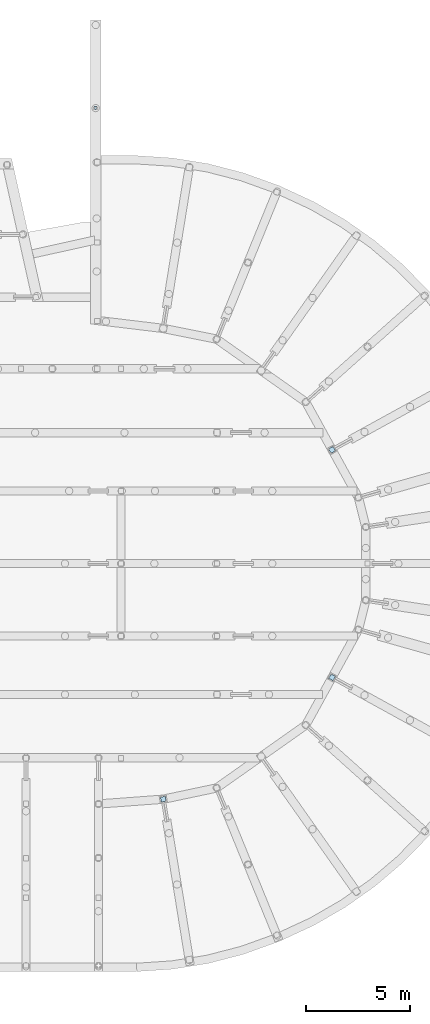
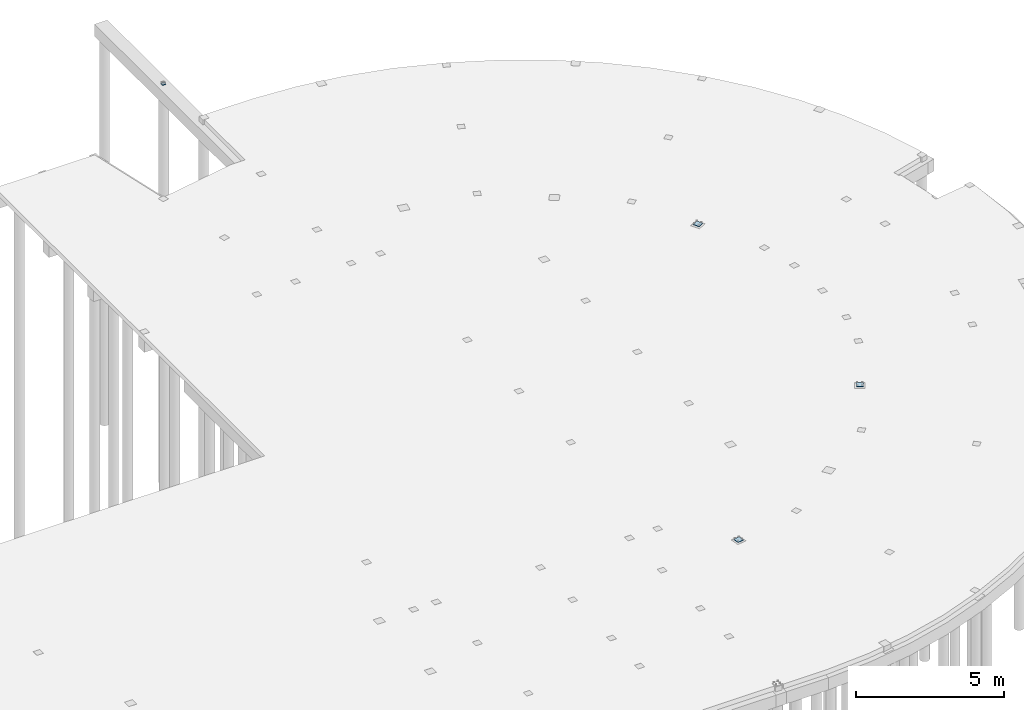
# One storey, part 8 of 22: 4 plates.
"""IFC2X3 building model written with IfcOpenShell, lengths in millimetres."""

from ifc_helpers import new_model, si_unit, frame, origin_with_axes, place, context, subcontext, project, spatial, polyline, outline, extrude, material, type_object, element, save


model = new_model("IFC2X3")

# Units and contexts
model_context = context("Model", 3, precision=1e-05, world=origin_with_axes())
body_context = subcontext(model_context, "Body", "Model", "MODEL_VIEW")
ifc_project = project(units=[si_unit("LENGTHUNIT", "METRE", prefix="MILLI"), si_unit("AREAUNIT", "SQUARE_METRE"), si_unit("VOLUMEUNIT", "CUBIC_METRE"), si_unit("MASSUNIT", "GRAM", prefix="KILO"), si_unit("TIMEUNIT", "SECOND"), si_unit("PLANEANGLEUNIT", "RADIAN"), si_unit("SOLIDANGLEUNIT", "STERADIAN"), si_unit("THERMODYNAMICTEMPERATUREUNIT", "DEGREE_CELSIUS"), si_unit("LUMINOUSINTENSITYUNIT", "LUMEN")], contexts=[model_context])

# Site, building, storey
site_placement = place(None, origin_with_axes())
site = spatial("IfcSite", under=ifc_project, at=site_placement, Name="Undefined", CompositionType="ELEMENT")
building_placement = place(site_placement, origin_with_axes())
building = spatial("IfcBuilding", under=site, at=building_placement, Name="Undefined", CompositionType="ELEMENT")
storey_placement = place(building_placement, origin_with_axes())
storey = spatial("IfcBuildingStorey", under=building, at=storey_placement, Name="Undefined", CompositionType="ELEMENT", Elevation=0.0)

# Plates
ifc_material = material(Name="STEEL/S235JR")
plate_type_1 = type_object("IfcPlateType", Name="PL15*240", PredefinedType="NOTDEFINED")
plate_1_placement = place(storey_placement, frame((60706.3084581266, 25146.9026812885, -42.5), z_axis=(0.0, 0.0, 1.0), x_axis=(-0.876415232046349, -0.481556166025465, 0.0)))
element("IfcPlate", 1, at=plate_1_placement, inside=storey, type_object=plate_type_1, material=ifc_material, Name="PLAAT", context=body_context, shape_type="SweptSolid", body=[
    extrude(outline(polyline([(240.000000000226, -119.999999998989), (9.67702362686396e-10, -120.000000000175), (-9.82254277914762e-10, 120.000000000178), (239.999999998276, 120.000000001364), (240.000000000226, -119.999999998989)])), frame((0.0, 0.0, -7.49999999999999), z_axis=(0.0, 0.0, 1.0), x_axis=(1.0, 0.0, 0.0)), (0.0, 0.0, 1.0), 15.0),
])
for number, where, z_axis, x_axis in (
    (2, (60706.3084581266, 14085.2973187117, -42.5), (0.0, 0.0, 1.0), (-0.876415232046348, 0.481556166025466, 0.0)),
    (3, (52499.9783395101, 8158.74834171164, -42.5), (0.0, 0.0, 1.0), (-0.158972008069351, 0.987283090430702, 0.0)),
):
    element("IfcPlate", number, at=place(storey_placement, frame(where, z_axis=z_axis, x_axis=x_axis)), inside=storey, type_object=plate_type_1, material=ifc_material, Name="PLAAT", context=body_context, shape_type="SweptSolid", body=[
        extrude(outline(polyline([(239.999999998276, 120.000000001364), (240.000000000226, -119.999999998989), (9.67702362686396e-10, -120.000000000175), (-9.82254277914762e-10, 120.000000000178), (239.999999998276, 120.000000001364)])), frame((0.0, 0.0, -7.49999999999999), z_axis=(0.0, 0.0, 1.0), x_axis=(1.0, 0.0, 0.0)), (0.0, 0.0, 1.0), 15.0),
    ])
plate_type_2 = type_object("IfcPlateType", Name="STRIP15*140", PredefinedType="NOTDEFINED")
plate_2_placement = place(storey_placement, frame((49146.1203901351, 41534.3009584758, -242.5), z_axis=(0.0, 0.0, 1.0), x_axis=(1.0, 0.0, 0.0)))
element("IfcPlate", 4, at=plate_2_placement, inside=storey, type_object=plate_type_2, material=ifc_material, Name="PLAAT", context=body_context, shape_type="SweptSolid", body=[
    extrude(outline(polyline([(0.0, -70.0), (0.0, 70.0), (140.0, 70.0), (140.0, -70.0), (0.0, -70.0)])), frame((0.0, 0.0, -7.49999999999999), z_axis=(0.0, 0.0, 1.0), x_axis=(1.0, 0.0, 0.0)), (0.0, 0.0, 1.0), 15.0),
])

save(model, "model.ifc")
